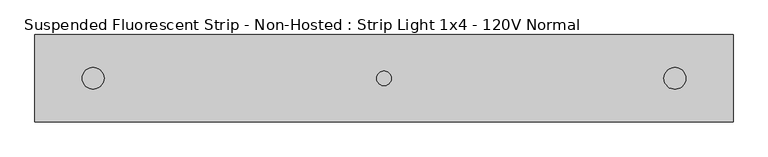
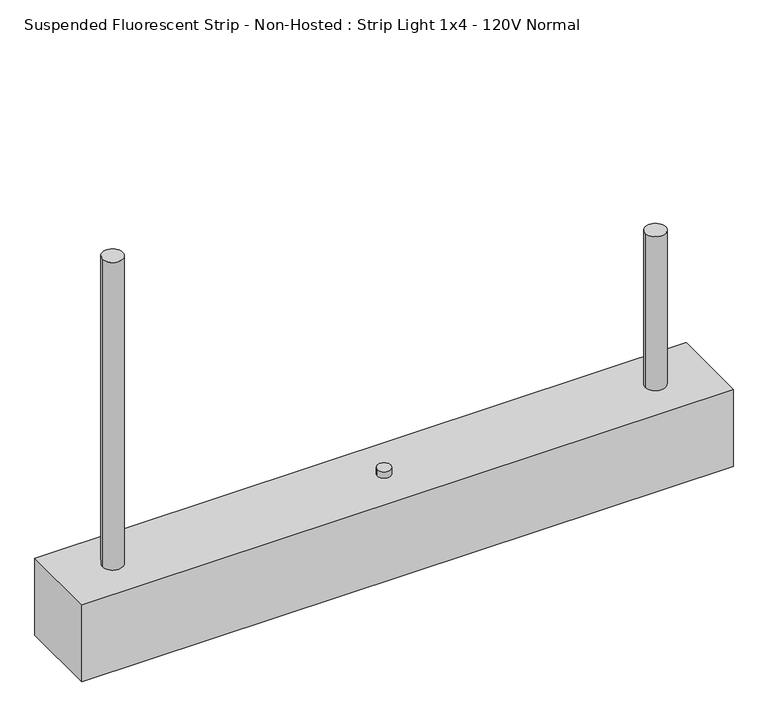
"""IFC4 building model written with IfcOpenShell, lengths in millimetres: light fixture geometry, Suspended Fluorescent Strip - Non-Hosted : Strip Light 1x4 - 120V Normal."""

from ifc_helpers import new_model, si_unit, point, frame, frame_2d, origin, origin_with_axes, origin_2d, place, context, project, spatial, polyline, circle_curve, trimmed, segment, composite_curve, outline, extrude, source, transform, mapped, element, save


def suspended_fluorescent_strip_non_hosted_strip_light_1x4_120v_a5e6163e(model_context):
    return source(origin(), model_context, "Body", "SweptSolid", [
        extrude(outline(composite_curve([segment(trimmed(circle_curve(frame_2d((508.0, 0.0)), 19.05), [point((527.05, 0.0))], [point((488.95, 0.0))], False, "CARTESIAN"), True, "CONTINUOUS"), segment(trimmed(circle_curve(frame_2d((508.0, 0.0)), 19.05), [point((488.95, 0.0))], [point((527.05, 0.0))], False, "CARTESIAN"), True, "CONTINUOUS")], self_intersect=False)), frame((0.0, 0.0, 152.4), z_axis=(0.0, 0.0, 1.0), x_axis=(1.0, 0.0, 0.0)), (0.0, 0.0, 1.0), 304.8),
        extrude(outline(composite_curve([segment(trimmed(circle_curve(frame_2d((-508.0, 0.0)), 19.05), [point((-488.95, 0.0))], [point((-527.05, 0.0))], False, "CARTESIAN"), True, "CONTINUOUS"), segment(trimmed(circle_curve(frame_2d((-508.0, 0.0)), 19.05), [point((-527.05, 0.0))], [point((-488.95, 0.0))], False, "CARTESIAN"), True, "CONTINUOUS")], self_intersect=False)), frame((0.0, 0.0, 152.4), z_axis=(0.0, 0.0, 1.0), x_axis=(1.0, 0.0, 0.0)), (0.0, 0.0, 1.0), 609.6),
        extrude(outline(composite_curve([segment(trimmed(circle_curve(origin_2d(), 12.7), [point((-12.7, 0.0))], [point((12.7, 0.0))], False, "CARTESIAN"), True, "CONTINUOUS"), segment(trimmed(circle_curve(origin_2d(), 12.7), [point((12.7, 0.0))], [point((-12.7, 0.0))], False, "CARTESIAN"), True, "CONTINUOUS")], self_intersect=False)), frame((0.0, 0.0, 152.4), z_axis=(0.0, 0.0, 1.0), x_axis=(1.0, 0.0, 0.0)), (0.0, 0.0, 1.0), 12.7),
        extrude(outline(polyline([(609.6, -76.2), (-609.6, -76.2), (-609.6, 76.2), (609.6, 76.2), (609.6, -76.2)])), origin_with_axes(), (0.0, 0.0, 1.0), 152.4),
    ])


if __name__ == "__main__":
    model = new_model("IFC4")
    model_context = context("Model", 3, world=origin())
    ifc_project = project(units=[si_unit("LENGTHUNIT", "METRE", prefix="MILLI")], contexts=[model_context])
    site = spatial("IfcSite", under=ifc_project)
    building = spatial("IfcBuilding", under=site)
    placement = place(None, origin())
    suspended_fluorescent_strip_non_hosted_strip_light_1x4_120v_shape = suspended_fluorescent_strip_non_hosted_strip_light_1x4_120v_a5e6163e(model_context)
    element("IfcLightFixture", 1, ObjectType="Suspended Fluorescent Strip - Non-Hosted : Strip Light 1x4 - 120V Normal", at=placement, inside=building, context=model_context, shape_type="MappedRepresentation", body=[
        mapped(suspended_fluorescent_strip_non_hosted_strip_light_1x4_120v_shape, transform((0.0, 0.0, 0.0), x_axis=(1.0, 0.0, 0.0), y_axis=(0.0, 1.0, 0.0), z_axis=(0.0, 0.0, 1.0))),
    ])
    save(model, "model.ifc")
